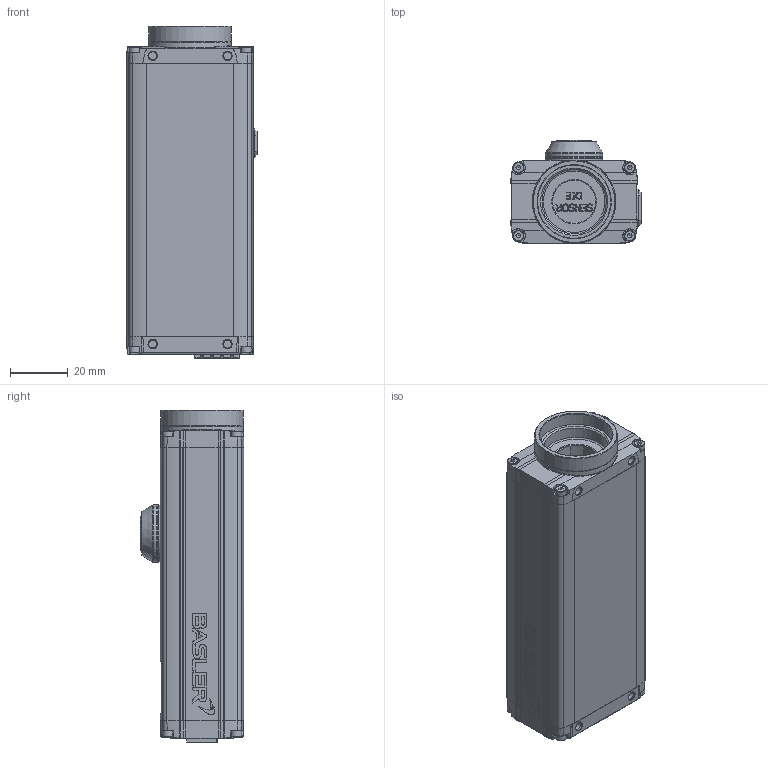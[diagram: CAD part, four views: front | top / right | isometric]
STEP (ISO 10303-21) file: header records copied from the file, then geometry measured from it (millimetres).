
FILE_DESCRIPTION((''),'2;1');
FILE_NAME('C:\cad\PSP2011Client\Work\146675876413IP02212703.stp','2016-06-24T11:00:24',(''),(''),'Autodesk Inventor 2011','Autodesk Inventor 2011','');
FILE_SCHEMA(('AUTOMOTIVE_DESIGN { 1 0 10303 214 1 1 1 1 }'));
Length unit declared in the file: millimetre
Products named in the file (1): 146675876413IP02212703
Bounding box: 45.3 x 35.98 x 115.42 mm (x, y, z)
Volume: 129986.5 mm3; surface area: 23672.3 mm2
Topology: 1 solids, 18 shells, 1959 faces, 5652 edges, 3801 vertices
Faces by surface type: plane 1311, bspline 321, cylinder 197, cone 82, torus 48
Full cylindrical faces by diameter (mm): 2 x9, 2.3 x8, 2.765 x4, 2.8 x4, 3.3 x8, 3.8 x9, 4.918 x1, 12 x1, 15.7 x1, 16.9 x1, 17 x2, 19.3 x1, 20 x3, 21.3 x1, 22.4 x1, 23 x1, 24 x1, 25 x1, 25.4 x1, 28.8 x1
Entity records: 87607 total; most frequent: CARTESIAN_POINT 36759, ORIENTED_EDGE 10984, DIRECTION 8625, EDGE_CURVE 5492, VECTOR 3787, LINE 3787, VERTEX_POINT 3761, AXIS2_PLACEMENT_3D 2419
